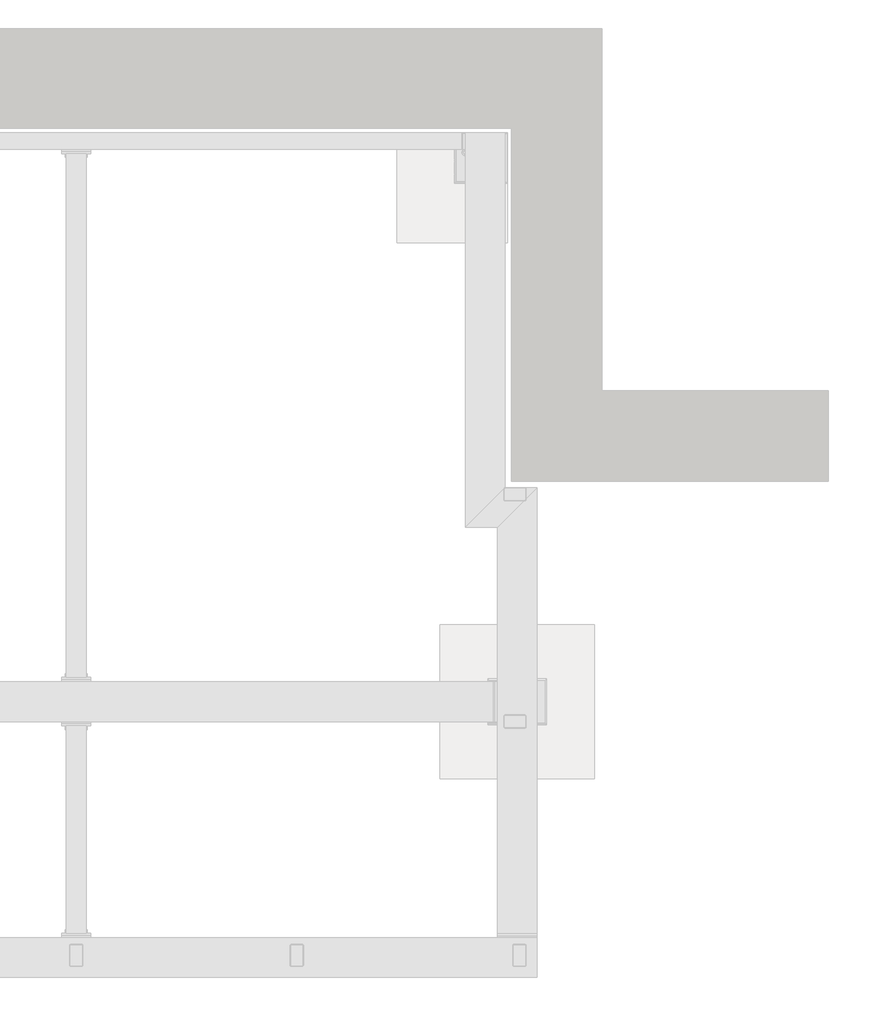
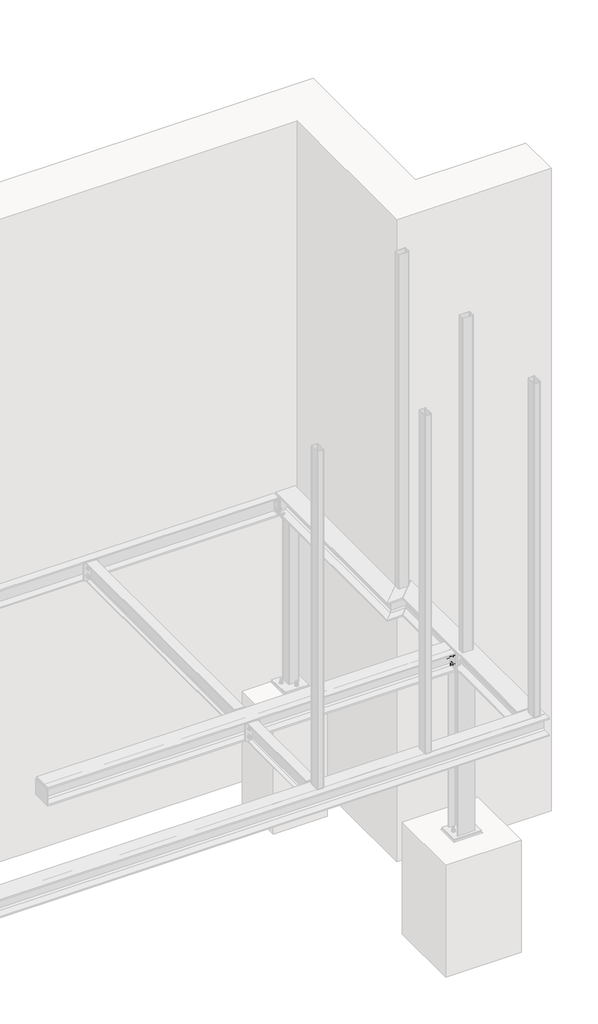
# One storey, part 31 of 31: 3 assemblies.
"""IFC4 building model written with IfcOpenShell, lengths in millimetres."""

from ifc_helpers import new_model, si_unit, point, frame, frame_2d, origin, place, context, project, spatial, polyline, circle_curve, ellipse_curve, trimmed, segment, composite_curve, outline, extrude, faceted_brep, element, save
from ifc_brep_helpers import plane_surface, revolved_surface, advanced_brep

model = new_model("IFC4")

# Units and contexts
model_context = context("Model", 3, world=origin())
ifc_project = project(units=[si_unit("LENGTHUNIT", "METRE", prefix="MILLI")], contexts=[model_context])

# Site, building, storey
site = spatial("IfcSite", under=ifc_project)
building = spatial("IfcBuilding", under=site)
storey = spatial("IfcBuildingStorey", under=building, Name="Základy", Elevation=-1200.0)

# Assemblies
placement = place(None, origin())
element("IfcElementAssembly", 1, at=placement, inside=storey, context=model_context, shape_type="SolidModel", body=[
    advanced_brep(
    [(16140.0, 210.0, -160.0), (15960.0, 210.0, -160.0), (15960.0, 210.0, -174.0), (16030.75, 210.0, -174.0), (16045.75, 210.0, -189.0), (16045.75, 210.0, -311.0), (16030.75, 210.0, -326.0), (15960.0, 210.0, -326.0), (15960.0, 210.0, -340.0), (16140.0, 210.0, -340.0), (16140.0, 210.0, -326.0), (16069.25, 210.0, -326.0), (16054.25, 210.0, -311.0), (16054.25, 210.0, -189.0), (16069.25, 210.0, -174.0), (16140.0, 210.0, -174.0), (16140.0, 2230.0, -160.0), (15960.0, 2050.0, -160.0), (15960.0, 2050.0, -174.0), (16030.75, 2120.75, -174.0), (16045.75, 2135.75, -189.0), (16045.75, 2135.75, -311.0), (16030.75, 2120.75, -326.0), (15960.0, 2050.0, -326.0), (15960.0, 2050.0, -340.0), (16140.0, 2230.0, -340.0), (16140.0, 2230.0, -326.0), (16069.25, 2159.25, -326.0), (16054.25, 2144.25, -311.0), (16054.25, 2144.25, -189.0), (16069.25, 2159.25, -174.0), (16140.0, 2230.0, -174.0)],
    [
        (0, 1),
        (1, 2),
        (2, 3),
        (3, 4, circle_curve(frame((16030.75, 210.0, -189.0), z_axis=(0.0, 1.0, 0.0), x_axis=(-1.0, 0.0, 0.0)), 15.0)),
        (4, 5),
        (5, 6, circle_curve(frame((16030.75, 210.0, -311.0), z_axis=(0.0, 1.0, 0.0), x_axis=(-1.0, 0.0, 0.0)), 15.0)),
        (6, 7),
        (7, 8),
        (8, 9),
        (9, 10),
        (10, 11),
        (11, 12, circle_curve(frame((16069.25, 210.0, -311.0), z_axis=(0.0, 1.0, 0.0), x_axis=(-1.0, 0.0, 0.0)), 15.0)),
        (12, 13),
        (13, 14, circle_curve(frame((16069.25, 210.0, -189.0), z_axis=(0.0, 1.0, 0.0), x_axis=(-1.0, 0.0, 0.0)), 15.0)),
        (14, 15),
        (15, 0),
        (0, 16),
        (16, 17),
        (17, 1),
        (17, 18),
        (18, 2),
        (18, 19),
        (19, 3),
        (19, 20, ellipse_curve(frame((16030.75, 2120.75, -189.0), z_axis=(-0.7071067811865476, 0.7071067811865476, 0.0), x_axis=(0.7071067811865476, 0.7071067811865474, 0.0)), 21.2132034, 15.0)),
        (20, 4),
        (20, 21),
        (21, 5),
        (21, 22, ellipse_curve(frame((16030.75, 2120.75, -311.0), z_axis=(-0.7071067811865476, 0.7071067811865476, 0.0), x_axis=(0.7071067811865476, 0.7071067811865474, 0.0)), 21.2132034, 15.0)),
        (22, 6),
        (22, 23),
        (23, 7),
        (23, 24),
        (24, 8),
        (24, 25),
        (25, 9),
        (25, 26),
        (26, 10),
        (26, 27),
        (27, 11),
        (27, 28, ellipse_curve(frame((16069.25, 2159.25, -311.0), z_axis=(-0.7071067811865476, 0.7071067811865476, 0.0), x_axis=(0.7071067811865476, 0.7071067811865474, 0.0)), 21.2132034, 15.0)),
        (28, 12),
        (28, 29),
        (29, 13),
        (29, 30, ellipse_curve(frame((16069.25, 2159.25, -189.0), z_axis=(-0.7071067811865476, 0.7071067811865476, 0.0), x_axis=(0.7071067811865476, 0.7071067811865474, 0.0)), 21.2132034, 15.0)),
        (30, 14),
        (30, 31),
        (31, 15),
        (31, 16),
    ],
    [
        plane_surface(frame((16050.0, 210.0, -250.0), z_axis=(0.0, -1.0, 0.0), x_axis=(0.0, 0.0, -1.0))),
        plane_surface(frame((16140.0, 210.0, -160.0), z_axis=(0.0, 0.0, 1.0), x_axis=(0.0, 1.0, 0.0))),
        plane_surface(frame((15960.0, 210.0, -160.0), z_axis=(-1.0, 0.0, 0.0), x_axis=(0.0, 1.0, 0.0))),
        plane_surface(frame((15960.0, 210.0, -174.0), z_axis=(0.0, 0.0, -1.0), x_axis=(0.0, 1.0, 0.0))),
        revolved_surface(polyline([(16015.75, 2135.75, -189.0), (16015.75, 210.0, -189.0)]), (16030.75, 2240.0, -189.0), (0.0, 1.0, 0.0)),
        plane_surface(frame((16045.75, 210.0, -189.0), z_axis=(-1.0, 0.0, 0.0), x_axis=(0.0, 1.0, 0.0))),
        revolved_surface(polyline([(16015.75, 2135.75, -311.0), (16015.75, 210.0, -311.0)]), (16030.75, 2240.0, -311.0), (0.0, 1.0, 0.0)),
        plane_surface(frame((16030.75, 210.0, -326.0), z_axis=(0.0, 0.0, 1.0), x_axis=(0.0, 1.0, 0.0))),
        plane_surface(frame((15960.0, 210.0, -326.0), z_axis=(-1.0, 0.0, 0.0), x_axis=(0.0, 1.0, 0.0))),
        plane_surface(frame((15960.0, 210.0, -340.0), z_axis=(0.0, 0.0, -1.0), x_axis=(0.0, 1.0, 0.0))),
        plane_surface(frame((16140.0, 210.0, -340.0), z_axis=(1.0, 0.0, 0.0), x_axis=(0.0, 1.0, 0.0))),
        plane_surface(frame((16140.0, 210.0, -326.0), z_axis=(0.0, 0.0, 1.0), x_axis=(0.0, 1.0, 0.0))),
        revolved_surface(polyline([(16054.25, 2174.2499999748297, -311.0), (16054.25, 210.0, -311.0)]), (16069.25, 2240.0, -311.0), (0.0, 1.0, 0.0)),
        plane_surface(frame((16054.25, 210.0, -311.0), z_axis=(1.0, 0.0, 0.0), x_axis=(0.0, 1.0, 0.0))),
        revolved_surface(polyline([(16054.25, 2174.2499999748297, -189.0), (16054.25, 210.0, -189.0)]), (16069.25, 2240.0, -189.0), (0.0, 1.0, 0.0)),
        plane_surface(frame((16069.25, 210.0, -174.0), z_axis=(0.0, 0.0, -1.0), x_axis=(0.0, 1.0, 0.0))),
        plane_surface(frame((16140.0, 210.0, -174.0), z_axis=(1.0, 0.0, 0.0), x_axis=(0.0, 1.0, 0.0))),
        plane_surface(frame((16150.0, 2240.0, -360.0), z_axis=(-0.7071067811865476, 0.7071067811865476, 0.0), x_axis=(0.7071067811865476, 0.7071067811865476, 0.0))),
    ],
    [
        (0, [[1, 2, 3, 4, 5, 6, 7, 8, 9, 10, 11, 12, 13, 14, 15, 16]]),
        (1, [[-1, 17, 18, 19]]),
        (2, [[-2, -19, 20, 21]]),
        (3, [[-3, -21, 22, 23]]),
        (4, [[-4, -23, 24, 25]]),
        (5, [[-5, -25, 26, 27]]),
        (6, [[-6, -27, 28, 29]]),
        (7, [[-7, -29, 30, 31]]),
        (8, [[-8, -31, 32, 33]]),
        (9, [[-9, -33, 34, 35]]),
        (10, [[-10, -35, 36, 37]]),
        (11, [[-11, -37, 38, 39]]),
        (12, [[-12, -39, 40, 41]]),
        (13, [[-13, -41, 42, 43]]),
        (14, [[-14, -43, 44, 45]]),
        (15, [[-15, -45, 46, 47]]),
        (16, [[-16, -47, 48, -17]]),
        (17, [[-18, -48, -46, -44, -42, -40, -38, -36, -34, -32, -30, -28, -26, -24, -22, -20]]),
    ],
),
    extrude(outline(polyline([(15950.0, 1170.0), (15950.0, 1350.0), (15960.0, 1350.0), (15960.0, 1170.0), (15950.0, 1170.0)])), frame((0.0, 0.0, -332.0), z_axis=(0.0, 0.0, 1.0), x_axis=(1.0, 0.0, 0.0)), (0.0, 0.0, 1.0), 164.0),
    extrude(outline(composite_curve([segment(polyline([(-174.0, 15960.0), (-326.0, 15960.0), (-326.0, 16020.5)]), True, "CONTINUOUS"), segment(trimmed(circle_curve(frame_2d((-326.0, 16045.5)), 25.0), [point((-326.0, 16020.5))], [point((-301.0, 16045.5))], True, "CARTESIAN"), True, "CONTINUOUS"), segment(polyline([(-301.0, 16045.5), (-199.0, 16045.5)]), True, "CONTINUOUS"), segment(trimmed(circle_curve(frame_2d((-174.0, 16045.5)), 25.0), [point((-199.0, 16045.5))], [point((-174.0, 16020.5))], True, "CARTESIAN"), True, "CONTINUOUS"), segment(polyline([(-174.0, 16020.5), (-174.0, 15960.0)]), True, "CONTINUOUS")], self_intersect=False)), frame((0.0, 1256.0, 0.0), z_axis=(0.0, 1.0, 0.0), x_axis=(0.0, 0.0, 1.0)), (0.0, 0.0, 1.0), 8.0),
    extrude(outline(polyline([(15960.0, 210.0), (16140.0, 210.0), (16140.0, 200.0), (15960.0, 200.0), (15960.0, 210.0)])), frame((0.0, 0.0, -332.0), z_axis=(0.0, 0.0, 1.0), x_axis=(1.0, 0.0, 0.0)), (0.0, 0.0, 1.0), 164.0),
    extrude(outline(composite_curve([segment(trimmed(circle_curve(frame_2d((1215.0, -210.0)), 8.5), [point((1215.0, -218.5))], [point((1215.0, -201.5))], False, "CARTESIAN"), True, "CONTINUOUS"), segment(trimmed(circle_curve(frame_2d((1215.0, -210.0)), 8.5), [point((1215.0, -201.5))], [point((1215.0, -218.5))], False, "CARTESIAN"), True, "CONTINUOUS")], self_intersect=False)), frame((15949.9, 0.0, 0.0), z_axis=(1.0, 0.0, 0.0), x_axis=(0.0, 1.0, 0.0)), (0.0, 0.0, 1.0), 10.0),
    extrude(outline(polyline([(1215.0, -223.8564065), (1203.0, -216.9282032), (1203.0, -203.0717968), (1215.0, -196.1435935), (1227.0, -203.0717968), (1227.0, -216.9282032), (1215.0, -223.8564065)])), frame((15963.0, 0.0, 0.0), z_axis=(1.0, 0.0, 0.0), x_axis=(0.0, 1.0, 0.0)), (0.0, 0.0, 1.0), 10.0),
    extrude(outline(composite_curve([segment(trimmed(circle_curve(frame_2d((1215.0, -210.0)), 8.0), [point((1215.0, -218.0))], [point((1215.0, -202.0))], False, "CARTESIAN"), True, "CONTINUOUS"), segment(trimmed(circle_curve(frame_2d((1215.0, -210.0)), 8.0), [point((1215.0, -202.0))], [point((1215.0, -218.0))], False, "CARTESIAN"), True, "CONTINUOUS")], self_intersect=False)), frame((15918.0, 0.0, 0.0), z_axis=(1.0, 0.0, 0.0), x_axis=(0.0, 1.0, 0.0)), (0.0, 0.0, 1.0), 45.0),
    extrude(outline(composite_curve([segment(trimmed(circle_curve(frame_2d((1215.0, -210.0)), 15.0), [point((1215.0, -225.0))], [point((1215.0, -195.0))], False, "CARTESIAN"), True, "CONTINUOUS"), segment(trimmed(circle_curve(frame_2d((1215.0, -210.0)), 15.0), [point((1215.0, -195.0))], [point((1215.0, -225.0))], False, "CARTESIAN"), True, "CONTINUOUS")], self_intersect=False)), frame((15960.0, 0.0, 0.0), z_axis=(1.0, 0.0, 0.0), x_axis=(0.0, 1.0, 0.0)), (0.0, 0.0, 1.0), 3.0),
    extrude(outline(composite_curve([segment(trimmed(circle_curve(frame_2d((1215.0, -210.0)), 15.0), [point((1215.0, -225.0))], [point((1215.0, -195.0))], False, "CARTESIAN"), True, "CONTINUOUS"), segment(trimmed(circle_curve(frame_2d((1215.0, -210.0)), 15.0), [point((1215.0, -195.0))], [point((1215.0, -225.0))], False, "CARTESIAN"), True, "CONTINUOUS")], self_intersect=False)), frame((15937.0, 0.0, 0.0), z_axis=(1.0, 0.0, 0.0), x_axis=(0.0, 1.0, 0.0)), (0.0, 0.0, 1.0), 3.0),
    extrude(outline(polyline([(1215.0, -225.4441197), (1201.625, -217.7220599), (1201.625, -202.2779401), (1215.0, -194.5558803), (1228.375, -202.2779401), (1228.375, -217.7220599), (1215.0, -225.4441197)])), frame((15924.0, 0.0, 0.0), z_axis=(1.0, 0.0, 0.0), x_axis=(0.0, 1.0, 0.0)), (0.0, 0.0, 1.0), 13.0),
    extrude(outline(composite_curve([segment(trimmed(circle_curve(frame_2d((1215.0, -210.0)), 8.5), [point((1215.0, -218.5))], [point((1215.0, -201.5))], False, "CARTESIAN"), True, "CONTINUOUS"), segment(trimmed(circle_curve(frame_2d((1215.0, -210.0)), 8.5), [point((1215.0, -201.5))], [point((1215.0, -218.5))], False, "CARTESIAN"), True, "CONTINUOUS")], self_intersect=False)), frame((15940.0, 0.0, 0.0), z_axis=(1.0, 0.0, 0.0), x_axis=(0.0, 1.0, 0.0)), (0.0, 0.0, 1.0), 10.1),
    extrude(outline(composite_curve([segment(trimmed(circle_curve(frame_2d((1215.0, -290.0)), 8.5), [point((1215.0, -298.5))], [point((1215.0, -281.5))], False, "CARTESIAN"), True, "CONTINUOUS"), segment(trimmed(circle_curve(frame_2d((1215.0, -290.0)), 8.5), [point((1215.0, -281.5))], [point((1215.0, -298.5))], False, "CARTESIAN"), True, "CONTINUOUS")], self_intersect=False)), frame((15949.9, 0.0, 0.0), z_axis=(1.0, 0.0, 0.0), x_axis=(0.0, 1.0, 0.0)), (0.0, 0.0, 1.0), 10.0),
    extrude(outline(polyline([(1215.0, -303.8564065), (1203.0, -296.9282032), (1203.0, -283.0717968), (1215.0, -276.1435935), (1227.0, -283.0717968), (1227.0, -296.9282032), (1215.0, -303.8564065)])), frame((15963.0, 0.0, 0.0), z_axis=(1.0, 0.0, 0.0), x_axis=(0.0, 1.0, 0.0)), (0.0, 0.0, 1.0), 10.0),
    extrude(outline(composite_curve([segment(trimmed(circle_curve(frame_2d((1215.0, -290.0)), 8.0), [point((1215.0, -298.0))], [point((1215.0, -282.0))], False, "CARTESIAN"), True, "CONTINUOUS"), segment(trimmed(circle_curve(frame_2d((1215.0, -290.0)), 8.0), [point((1215.0, -282.0))], [point((1215.0, -298.0))], False, "CARTESIAN"), True, "CONTINUOUS")], self_intersect=False)), frame((15918.0, 0.0, 0.0), z_axis=(1.0, 0.0, 0.0), x_axis=(0.0, 1.0, 0.0)), (0.0, 0.0, 1.0), 45.0),
    extrude(outline(composite_curve([segment(trimmed(circle_curve(frame_2d((1215.0, -290.0)), 15.0), [point((1215.0, -305.0))], [point((1215.0, -275.0))], False, "CARTESIAN"), True, "CONTINUOUS"), segment(trimmed(circle_curve(frame_2d((1215.0, -290.0)), 15.0), [point((1215.0, -275.0))], [point((1215.0, -305.0))], False, "CARTESIAN"), True, "CONTINUOUS")], self_intersect=False)), frame((15960.0, 0.0, 0.0), z_axis=(1.0, 0.0, 0.0), x_axis=(0.0, 1.0, 0.0)), (0.0, 0.0, 1.0), 3.0),
    extrude(outline(composite_curve([segment(trimmed(circle_curve(frame_2d((1215.0, -290.0)), 15.0), [point((1215.0, -305.0))], [point((1215.0, -275.0))], False, "CARTESIAN"), True, "CONTINUOUS"), segment(trimmed(circle_curve(frame_2d((1215.0, -290.0)), 15.0), [point((1215.0, -275.0))], [point((1215.0, -305.0))], False, "CARTESIAN"), True, "CONTINUOUS")], self_intersect=False)), frame((15937.0, 0.0, 0.0), z_axis=(1.0, 0.0, 0.0), x_axis=(0.0, 1.0, 0.0)), (0.0, 0.0, 1.0), 3.0),
    extrude(outline(polyline([(1215.0, -305.4441197), (1201.625, -297.7220599), (1201.625, -282.2779401), (1215.0, -274.5558803), (1228.375, -282.2779401), (1228.375, -297.7220599), (1215.0, -305.4441197)])), frame((15924.0, 0.0, 0.0), z_axis=(1.0, 0.0, 0.0), x_axis=(0.0, 1.0, 0.0)), (0.0, 0.0, 1.0), 13.0),
    extrude(outline(composite_curve([segment(trimmed(circle_curve(frame_2d((1215.0, -290.0)), 8.5), [point((1215.0, -298.5))], [point((1215.0, -281.5))], False, "CARTESIAN"), True, "CONTINUOUS"), segment(trimmed(circle_curve(frame_2d((1215.0, -290.0)), 8.5), [point((1215.0, -281.5))], [point((1215.0, -298.5))], False, "CARTESIAN"), True, "CONTINUOUS")], self_intersect=False)), frame((15940.0, 0.0, 0.0), z_axis=(1.0, 0.0, 0.0), x_axis=(0.0, 1.0, 0.0)), (0.0, 0.0, 1.0), 10.1),
    extrude(outline(composite_curve([segment(trimmed(circle_curve(frame_2d((1305.0, -210.0)), 8.5), [point((1305.0, -218.5))], [point((1305.0, -201.5))], False, "CARTESIAN"), True, "CONTINUOUS"), segment(trimmed(circle_curve(frame_2d((1305.0, -210.0)), 8.5), [point((1305.0, -201.5))], [point((1305.0, -218.5))], False, "CARTESIAN"), True, "CONTINUOUS")], self_intersect=False)), frame((15949.9, 0.0, 0.0), z_axis=(1.0, 0.0, 0.0), x_axis=(0.0, 1.0, 0.0)), (0.0, 0.0, 1.0), 10.0),
    extrude(outline(polyline([(1305.0, -223.8564065), (1293.0, -216.9282032), (1293.0, -203.0717968), (1305.0, -196.1435935), (1317.0, -203.0717968), (1317.0, -216.9282032), (1305.0, -223.8564065)])), frame((15963.0, 0.0, 0.0), z_axis=(1.0, 0.0, 0.0), x_axis=(0.0, 1.0, 0.0)), (0.0, 0.0, 1.0), 10.0),
    extrude(outline(composite_curve([segment(trimmed(circle_curve(frame_2d((1305.0, -210.0)), 8.0), [point((1305.0, -218.0))], [point((1305.0, -202.0))], False, "CARTESIAN"), True, "CONTINUOUS"), segment(trimmed(circle_curve(frame_2d((1305.0, -210.0)), 8.0), [point((1305.0, -202.0))], [point((1305.0, -218.0))], False, "CARTESIAN"), True, "CONTINUOUS")], self_intersect=False)), frame((15918.0, 0.0, 0.0), z_axis=(1.0, 0.0, 0.0), x_axis=(0.0, 1.0, 0.0)), (0.0, 0.0, 1.0), 45.0),
    extrude(outline(composite_curve([segment(trimmed(circle_curve(frame_2d((1305.0, -210.0)), 15.0), [point((1305.0, -225.0))], [point((1305.0, -195.0))], False, "CARTESIAN"), True, "CONTINUOUS"), segment(trimmed(circle_curve(frame_2d((1305.0, -210.0)), 15.0), [point((1305.0, -195.0))], [point((1305.0, -225.0))], False, "CARTESIAN"), True, "CONTINUOUS")], self_intersect=False)), frame((15960.0, 0.0, 0.0), z_axis=(1.0, 0.0, 0.0), x_axis=(0.0, 1.0, 0.0)), (0.0, 0.0, 1.0), 3.0),
    extrude(outline(composite_curve([segment(trimmed(circle_curve(frame_2d((1305.0, -210.0)), 15.0), [point((1305.0, -225.0))], [point((1305.0, -195.0))], False, "CARTESIAN"), True, "CONTINUOUS"), segment(trimmed(circle_curve(frame_2d((1305.0, -210.0)), 15.0), [point((1305.0, -195.0))], [point((1305.0, -225.0))], False, "CARTESIAN"), True, "CONTINUOUS")], self_intersect=False)), frame((15937.0, 0.0, 0.0), z_axis=(1.0, 0.0, 0.0), x_axis=(0.0, 1.0, 0.0)), (0.0, 0.0, 1.0), 3.0),
    extrude(outline(polyline([(1305.0, -225.4441197), (1291.625, -217.7220599), (1291.625, -202.2779401), (1305.0, -194.5558803), (1318.375, -202.2779401), (1318.375, -217.7220599), (1305.0, -225.4441197)])), frame((15924.0, 0.0, 0.0), z_axis=(1.0, 0.0, 0.0), x_axis=(0.0, 1.0, 0.0)), (0.0, 0.0, 1.0), 13.0),
    extrude(outline(composite_curve([segment(trimmed(circle_curve(frame_2d((1305.0, -210.0)), 8.5), [point((1305.0, -218.5))], [point((1305.0, -201.5))], False, "CARTESIAN"), True, "CONTINUOUS"), segment(trimmed(circle_curve(frame_2d((1305.0, -210.0)), 8.5), [point((1305.0, -201.5))], [point((1305.0, -218.5))], False, "CARTESIAN"), True, "CONTINUOUS")], self_intersect=False)), frame((15940.0, 0.0, 0.0), z_axis=(1.0, 0.0, 0.0), x_axis=(0.0, 1.0, 0.0)), (0.0, 0.0, 1.0), 10.1),
    extrude(outline(composite_curve([segment(trimmed(circle_curve(frame_2d((1305.0, -290.0)), 8.5), [point((1305.0, -298.5))], [point((1305.0, -281.5))], False, "CARTESIAN"), True, "CONTINUOUS"), segment(trimmed(circle_curve(frame_2d((1305.0, -290.0)), 8.5), [point((1305.0, -281.5))], [point((1305.0, -298.5))], False, "CARTESIAN"), True, "CONTINUOUS")], self_intersect=False)), frame((15949.9, 0.0, 0.0), z_axis=(1.0, 0.0, 0.0), x_axis=(0.0, 1.0, 0.0)), (0.0, 0.0, 1.0), 10.0),
    extrude(outline(polyline([(1305.0, -303.8564065), (1293.0, -296.9282032), (1293.0, -283.0717968), (1305.0, -276.1435935), (1317.0, -283.0717968), (1317.0, -296.9282032), (1305.0, -303.8564065)])), frame((15963.0, 0.0, 0.0), z_axis=(1.0, 0.0, 0.0), x_axis=(0.0, 1.0, 0.0)), (0.0, 0.0, 1.0), 10.0),
    extrude(outline(composite_curve([segment(trimmed(circle_curve(frame_2d((1305.0, -290.0)), 8.0), [point((1305.0, -298.0))], [point((1305.0, -282.0))], False, "CARTESIAN"), True, "CONTINUOUS"), segment(trimmed(circle_curve(frame_2d((1305.0, -290.0)), 8.0), [point((1305.0, -282.0))], [point((1305.0, -298.0))], False, "CARTESIAN"), True, "CONTINUOUS")], self_intersect=False)), frame((15918.0, 0.0, 0.0), z_axis=(1.0, 0.0, 0.0), x_axis=(0.0, 1.0, 0.0)), (0.0, 0.0, 1.0), 45.0),
    extrude(outline(composite_curve([segment(trimmed(circle_curve(frame_2d((1305.0, -290.0)), 15.0), [point((1305.0, -305.0))], [point((1305.0, -275.0))], False, "CARTESIAN"), True, "CONTINUOUS"), segment(trimmed(circle_curve(frame_2d((1305.0, -290.0)), 15.0), [point((1305.0, -275.0))], [point((1305.0, -305.0))], False, "CARTESIAN"), True, "CONTINUOUS")], self_intersect=False)), frame((15960.0, 0.0, 0.0), z_axis=(1.0, 0.0, 0.0), x_axis=(0.0, 1.0, 0.0)), (0.0, 0.0, 1.0), 3.0),
    extrude(outline(composite_curve([segment(trimmed(circle_curve(frame_2d((1305.0, -290.0)), 15.0), [point((1305.0, -305.0))], [point((1305.0, -275.0))], False, "CARTESIAN"), True, "CONTINUOUS"), segment(trimmed(circle_curve(frame_2d((1305.0, -290.0)), 15.0), [point((1305.0, -275.0))], [point((1305.0, -305.0))], False, "CARTESIAN"), True, "CONTINUOUS")], self_intersect=False)), frame((15937.0, 0.0, 0.0), z_axis=(1.0, 0.0, 0.0), x_axis=(0.0, 1.0, 0.0)), (0.0, 0.0, 1.0), 3.0),
    extrude(outline(polyline([(1305.0, -305.4441197), (1291.625, -297.7220599), (1291.625, -282.2779401), (1305.0, -274.5558803), (1318.375, -282.2779401), (1318.375, -297.7220599), (1305.0, -305.4441197)])), frame((15924.0, 0.0, 0.0), z_axis=(1.0, 0.0, 0.0), x_axis=(0.0, 1.0, 0.0)), (0.0, 0.0, 1.0), 13.0),
    extrude(outline(composite_curve([segment(trimmed(circle_curve(frame_2d((1305.0, -290.0)), 8.5), [point((1305.0, -298.5))], [point((1305.0, -281.5))], False, "CARTESIAN"), True, "CONTINUOUS"), segment(trimmed(circle_curve(frame_2d((1305.0, -290.0)), 8.5), [point((1305.0, -281.5))], [point((1305.0, -298.5))], False, "CARTESIAN"), True, "CONTINUOUS")], self_intersect=False)), frame((15940.0, 0.0, 0.0), z_axis=(1.0, 0.0, 0.0), x_axis=(0.0, 1.0, 0.0)), (0.0, 0.0, 1.0), 10.1),
])
element("IfcElementAssembly", 2, at=placement, inside=storey, context=model_context, shape_type="Brep", body=[
    faceted_brep([(15925.0, 1356.0, -1990.0), (15925.0, 1164.0, -1990.0), (16175.0, 1164.0, -1990.0), (16175.0, 1356.0, -1990.0), (16185.0, 1154.0, -2000.0), (15915.0, 1154.0, -2000.0), (15915.0, 1366.0, -2000.0), (16185.0, 1366.0, -2000.0)], [[[0, 1, 2, 3]], [[4, 5, 6, 7]], [[5, 4, 2, 1]], [[1, 0, 6, 5]], [[7, 6, 0, 3]], [[3, 2, 4, 7]]]),
])
element("IfcElementAssembly", 3, at=placement, inside=storey, context=model_context, shape_type="SweptSolid", body=[
    extrude(outline(composite_curve([segment(polyline([(16090.0, 2223.6), (16090.0, 2176.4)]), True, "CONTINUOUS"), segment(trimmed(circle_curve(frame_2d((16083.6, 2176.4)), 6.4), [point((16090.0, 2176.4))], [point((16083.6, 2170.0))], False, "CARTESIAN"), True, "CONTINUOUS"), segment(polyline([(16083.6, 2170.0), (15996.4, 2170.0)]), True, "CONTINUOUS"), segment(trimmed(circle_curve(frame_2d((15996.4, 2176.4)), 6.4), [point((15996.4, 2170.0))], [point((15990.0, 2176.4))], False, "CARTESIAN"), True, "CONTINUOUS"), segment(polyline([(15990.0, 2176.4), (15990.0, 2223.6)]), True, "CONTINUOUS"), segment(trimmed(circle_curve(frame_2d((15996.4, 2223.6)), 6.4), [point((15990.0, 2223.6))], [point((15996.4, 2230.0))], False, "CARTESIAN"), True, "CONTINUOUS"), segment(polyline([(15996.4, 2230.0), (16083.6, 2230.0)]), True, "CONTINUOUS"), segment(trimmed(circle_curve(frame_2d((16083.6, 2223.6)), 6.4), [point((16083.6, 2230.0))], [point((16090.0, 2223.6))], False, "CARTESIAN"), True, "CONTINUOUS")], self_intersect=False), holes=[composite_curve([segment(trimmed(circle_curve(frame_2d((16083.6, 2223.6)), 3.2), [point((16086.8, 2223.6))], [point((16083.6, 2226.8))], True, "CARTESIAN"), True, "CONTINUOUS"), segment(polyline([(16083.6, 2226.8), (15996.4, 2226.8)]), True, "CONTINUOUS"), segment(trimmed(circle_curve(frame_2d((15996.4, 2223.6)), 3.2), [point((15996.4, 2226.8))], [point((15993.2, 2223.6))], True, "CARTESIAN"), True, "CONTINUOUS"), segment(polyline([(15993.2, 2223.6), (15993.2, 2176.4)]), True, "CONTINUOUS"), segment(trimmed(circle_curve(frame_2d((15996.4, 2176.4)), 3.2), [point((15993.2, 2176.4))], [point((15996.4, 2173.2))], True, "CARTESIAN"), True, "CONTINUOUS"), segment(polyline([(15996.4, 2173.2), (16083.6, 2173.2)]), True, "CONTINUOUS"), segment(trimmed(circle_curve(frame_2d((16083.6, 2176.4)), 3.2), [point((16083.6, 2173.2))], [point((16086.8, 2176.4))], True, "CARTESIAN"), True, "CONTINUOUS"), segment(polyline([(16086.8, 2176.4), (16086.8, 2223.6)]), True, "CONTINUOUS")], self_intersect=False)]), frame((0.0, 0.0, -160.0), z_axis=(0.0, 0.0, 1.0), x_axis=(1.0, 0.0, 0.0)), (0.0, 0.0, 1.0), 3280.0),
])

save(model, "model.ifc")
